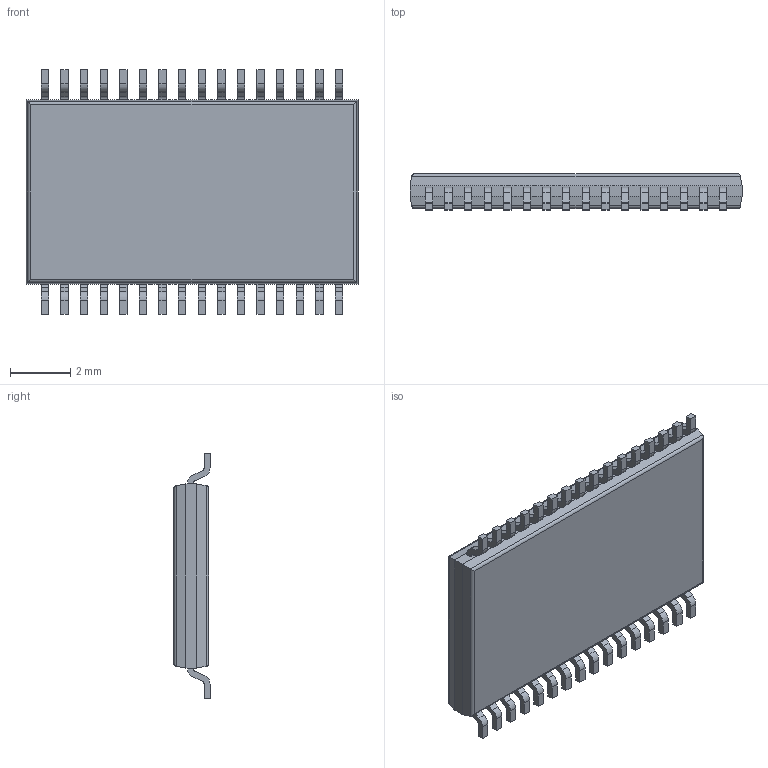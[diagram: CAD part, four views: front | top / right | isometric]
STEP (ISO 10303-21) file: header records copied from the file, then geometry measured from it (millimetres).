
FILE_DESCRIPTION (( 'STEP AP214' ), '1' );
FILE_NAME ( 'SOP65P810X120-32.STEP', '2013-08-13T09:33:15', ( '' ), ( '' ), 'FPX Expert 2013', 'PCB Libraries', '' );
FILE_SCHEMA (( 'AUTOMOTIVE_DESIGN' ));
Length unit declared in the file: millimetre
Products named in the file (1): SOP65P810X120-32
Bounding box: 11 x 1.2 x 8.1 mm (x, y, z)
Volume: 78.1 mm3; surface area: 207.2 mm2
Topology: 33 solids, 33 shells, 473 faces, 1202 edges, 796 vertices
Faces by surface type: plane 335, cylinder 136, torus 2
Entity records: 15687 total; most frequent: CARTESIAN_POINT 2496, DIRECTION 2404, ORIENTED_EDGE 2404, EDGE_CURVE 1202, VECTOR 932, LINE 932, VERTEX_POINT 796, AXIS2_PLACEMENT_3D 736
